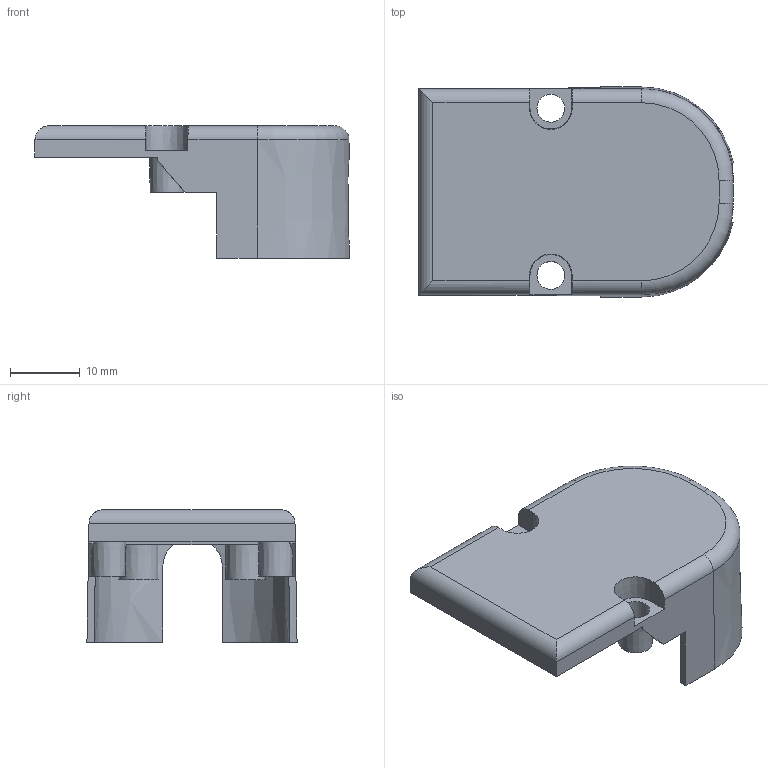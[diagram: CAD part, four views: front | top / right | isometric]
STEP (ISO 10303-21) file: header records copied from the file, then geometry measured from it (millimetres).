
FILE_DESCRIPTION(/* description */ ('Unknown'),/* implementation_level */ '2;1');
FILE_NAME(/* name */ 'deckel20-30VG1ZUG1',/* time_stamp */ '2019-08-28T11:16:01+02:00',/* author */ ('Unknown'),/* organization */ ('Unknown'),/* preprocessor_version */ 'ST-DEVELOPER v16.7',/* originating_system */ 'DEX',/* authorisation */ $);
FILE_SCHEMA (('AUTOMOTIVE_DESIGN {1 0 10303 214 3 1 1}'));
Length unit declared in the file: millimetre
Products named in the file (1): deckel20-30VG1ZUG1
Bounding box: 45.17 x 30.16 x 19 mm (x, y, z)
Surface area: 6099.2 mm2 (no closed solid volume)
Topology: 0 solids, 1 shells, 80 faces, 228 edges, 150 vertices
Faces by surface type: plane 55, cone 14, cylinder 9, torus 2
Full cylindrical faces by diameter (mm): 4 x2
Entity records: 2554 total; most frequent: CARTESIAN_POINT 521, ORIENTED_EDGE 420, DIRECTION 406, EDGE_CURVE 210, AXIS2_PLACEMENT_3D 143, VERTEX_POINT 142, LINE 120, VECTOR 120
